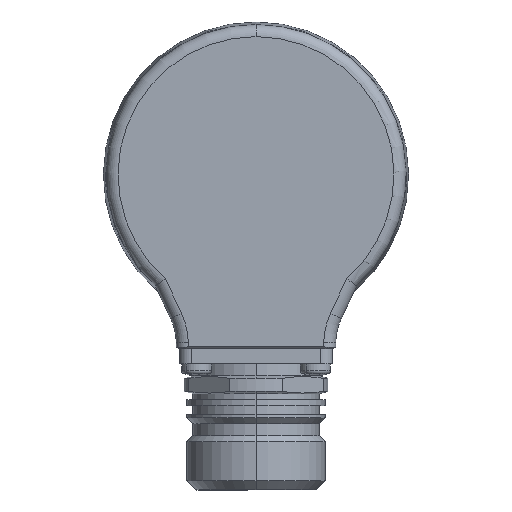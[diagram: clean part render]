
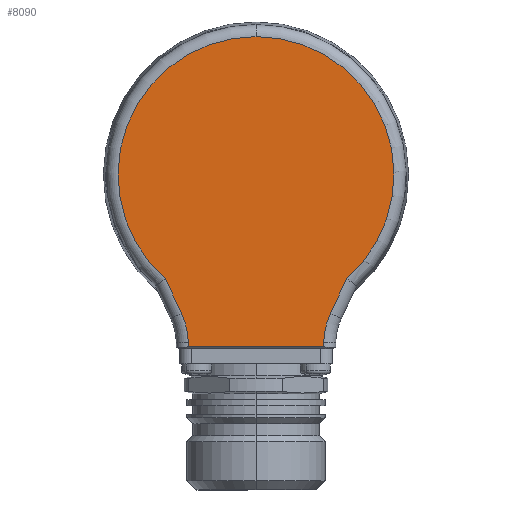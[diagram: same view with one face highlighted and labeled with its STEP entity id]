
A CAD part, left-side view. The second image highlights one B-rep face of the part: STEP entity #8090.
In plain terms, the highlighted planar face has unit normal (-1, 0, 0).
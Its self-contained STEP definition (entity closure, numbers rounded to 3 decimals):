
#3408 = DIRECTION ( 'NONE',  ( 0., 0., 1. ) ) ;
#3409 = DIRECTION ( 'NONE',  ( 1., 0., 0. ) ) ;
#3410 = CARTESIAN_POINT ( 'NONE',  ( -21., -23.266, -28.183 ) ) ;
#3411 = AXIS2_PLACEMENT_3D ( 'NONE', #3410, #3409, #3408 ) ;
#3412 = CIRCLE ( 'NONE', #3411, 12. ) ;
#3419 = CARTESIAN_POINT ( 'NONE',  ( -21., -11.268, -27.974 ) ) ;
#3440 = DIRECTION ( 'NONE',  ( 0., -0.017, 1. ) ) ;
#3441 = VECTOR ( 'NONE', #3440, 1000. ) ;
#3442 = CARTESIAN_POINT ( 'NONE',  ( -21., -11.752, -0.205 ) ) ;
#3447 = LINE ( 'NONE', #3442, #3441 ) ;
#3659 = DIRECTION ( 'NONE',  ( 0., 0., 1. ) ) ;
#3660 = DIRECTION ( 'NONE',  ( 1., 0., 0. ) ) ;
#3661 = CARTESIAN_POINT ( 'NONE',  ( -21., 23.266, -28.183 ) ) ;
#3662 = AXIS2_PLACEMENT_3D ( 'NONE', #3661, #3660, #3659 ) ;
#3663 = CIRCLE ( 'NONE', #3662, 12. ) ;
#3665 = CARTESIAN_POINT ( 'NONE',  ( -21., 12.39, -23.112 ) ) ;
#3666 = DIRECTION ( 'NONE',  ( 0., -0.423, -0.906 ) ) ;
#3667 = VECTOR ( 'NONE', #3666, 1000. ) ;
#3668 = CARTESIAN_POINT ( 'NONE',  ( -21., 12.39, -23.112 ) ) ;
#3669 = LINE ( 'NONE', #3668, #3667 ) ;
#3871 = CARTESIAN_POINT ( 'NONE',  ( -21., 11.268, -27.974 ) ) ;
#3876 = PLANE ( 'NONE',  #4038 ) ;
#3891 = FACE_OUTER_BOUND ( 'NONE', #8091, .T. ) ;
#3892 = DIRECTION ( 'NONE',  ( 0., -1., 0. ) ) ;
#3893 = VECTOR ( 'NONE', #3892, 1000. ) ;
#3894 = CARTESIAN_POINT ( 'NONE',  ( -21., -11.25, -28.695 ) ) ;
#3895 = LINE ( 'NONE', #3894, #3893 ) ;
#3937 = CARTESIAN_POINT ( 'NONE',  ( -21., -11.255, -28.695 ) ) ;
#4031 = DIRECTION ( 'NONE',  ( 0., -0.017, -1. ) ) ;
#4032 = VECTOR ( 'NONE', #4031, 1000. ) ;
#4033 = CARTESIAN_POINT ( 'NONE',  ( -21., 11.752, -0.205 ) ) ;
#4034 = LINE ( 'NONE', #4033, #4032 ) ;
#4035 = DIRECTION ( 'NONE',  ( 0., 0., 1. ) ) ;
#4036 = DIRECTION ( 'NONE',  ( 1., 0., 0. ) ) ;
#4037 = CARTESIAN_POINT ( 'NONE',  ( -21., 0., 0. ) ) ;
#4038 = AXIS2_PLACEMENT_3D ( 'NONE', #4037, #4036, #4035 ) ;
#4630 = CARTESIAN_POINT ( 'NONE',  ( -21., 11.255, -28.695 ) ) ;
#7297 = DIRECTION ( 'NONE',  ( 0., -0.423, 0.906 ) ) ;
#7298 = VECTOR ( 'NONE', #7297, 1000. ) ;
#7299 = CARTESIAN_POINT ( 'NONE',  ( -21., -14.953, -17.615 ) ) ;
#7301 = CARTESIAN_POINT ( 'NONE',  ( -21., -15.091, -17.32 ) ) ;
#7302 = LINE ( 'NONE', #7299, #7298 ) ;
#7588 = CARTESIAN_POINT ( 'NONE',  ( -21., -12.39, -23.112 ) ) ;
#7790 = CARTESIAN_POINT ( 'NONE',  ( -21., 15.091, -17.32 ) ) ;
#7791 = CARTESIAN_POINT ( 'NONE',  ( -21., 0., 22.972 ) ) ;
#7792 = DIRECTION ( 'NONE',  ( 0., 0., 1. ) ) ;
#7793 = DIRECTION ( 'NONE',  ( -1., 0., 0. ) ) ;
#7794 = AXIS2_PLACEMENT_3D ( 'NONE', #7800, #7793, #7792 ) ;
#7795 = CIRCLE ( 'NONE', #7794, 22.972 ) ;
#7800 = CARTESIAN_POINT ( 'NONE',  ( -21., 0., 0. ) ) ;
#7846 = DIRECTION ( 'NONE',  ( -1., 0., 0. ) ) ;
#7847 = CARTESIAN_POINT ( 'NONE',  ( -21., 0., 0. ) ) ;
#7848 = AXIS2_PLACEMENT_3D ( 'NONE', #7847, #7846, #7910 ) ;
#7849 = CIRCLE ( 'NONE', #7848, 22.972 ) ;
#7910 = DIRECTION ( 'NONE',  ( 0., 0., 1. ) ) ;
#7988 = EDGE_CURVE ( 'NONE', #8131, #8014, #3447, .T. ) ;
#7989 = ORIENTED_EDGE ( 'NONE', *, *, #8018, .T. ) ;
#7990 = ORIENTED_EDGE ( 'NONE', *, *, #14752, .T. ) ;
#7991 = ORIENTED_EDGE ( 'NONE', *, *, #14974, .T. ) ;
#8014 = VERTEX_POINT ( 'NONE', #3419 ) ;
#8018 = EDGE_CURVE ( 'NONE', #8014, #14868, #3412, .T. ) ;
#8073 = ORIENTED_EDGE ( 'NONE', *, *, #14877, .T. ) ;
#8074 = ORIENTED_EDGE ( 'NONE', *, *, #8075, .T. ) ;
#8075 = EDGE_CURVE ( 'NONE', #14879, #8076, #3669, .T. ) ;
#8076 = VERTEX_POINT ( 'NONE', #3665 ) ;
#8077 = ORIENTED_EDGE ( 'NONE', *, *, #8078, .T. ) ;
#8078 = EDGE_CURVE ( 'NONE', #8076, #8083, #3663, .T. ) ;
#8083 = VERTEX_POINT ( 'NONE', #3871 ) ;
#8084 = ORIENTED_EDGE ( 'NONE', *, *, #8087, .T. ) ;
#8085 = ORIENTED_EDGE ( 'NONE', *, *, #7988, .T. ) ;
#8087 = EDGE_CURVE ( 'NONE', #8255, #8131, #3895, .T. ) ;
#8090 = ADVANCED_FACE ( 'NONE', ( #3891 ), #3876, .F. ) ;
#8091 = EDGE_LOOP ( 'NONE', ( #8092, #8084, #8085, #7989, #7990, #7991, #8073, #8074, #8077 ) ) ;
#8092 = ORIENTED_EDGE ( 'NONE', *, *, #8093, .T. ) ;
#8093 = EDGE_CURVE ( 'NONE', #8083, #8255, #4034, .T. ) ;
#8131 = VERTEX_POINT ( 'NONE', #3937 ) ;
#8255 = VERTEX_POINT ( 'NONE', #4630 ) ;
#14750 = VERTEX_POINT ( 'NONE', #7301 ) ;
#14752 = EDGE_CURVE ( 'NONE', #14868, #14750, #7302, .T. ) ;
#14868 = VERTEX_POINT ( 'NONE', #7588 ) ;
#14877 = EDGE_CURVE ( 'NONE', #14878, #14879, #7795, .T. ) ;
#14878 = VERTEX_POINT ( 'NONE', #7791 ) ;
#14879 = VERTEX_POINT ( 'NONE', #7790 ) ;
#14974 = EDGE_CURVE ( 'NONE', #14750, #14878, #7849, .T. ) ;
